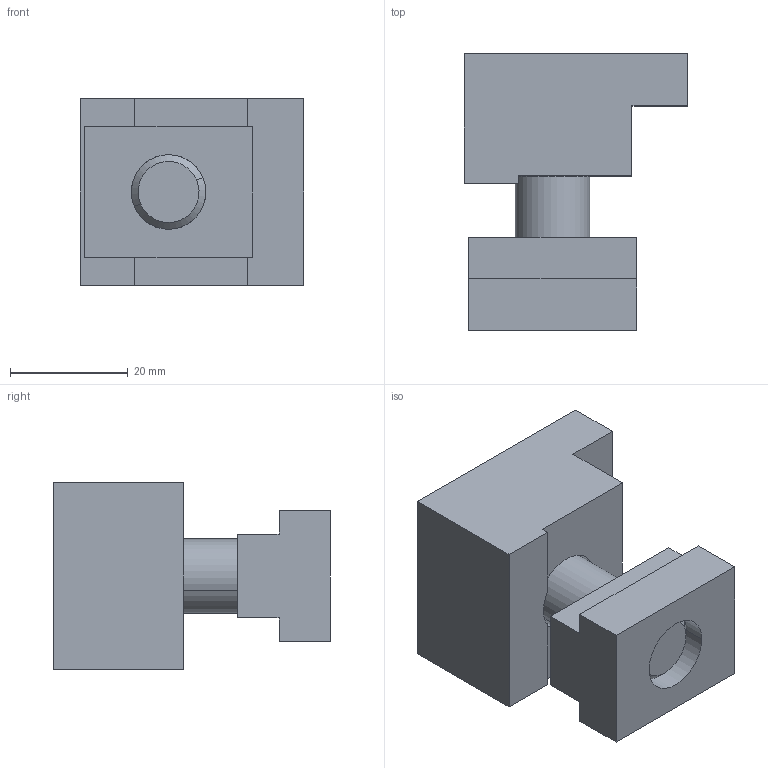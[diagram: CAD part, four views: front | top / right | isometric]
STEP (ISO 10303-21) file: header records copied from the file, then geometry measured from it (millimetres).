
FILE_DESCRIPTION (( 'STEP AP203' ), '1' );
FILE_NAME ('VERSABUILT MULTIGRIP VISE TOE CLAMP - 2025-05-14.STEP', '2025-05-14T20:46:16', ( '' ), ( '' ), 'SwSTEP 2.0', 'SolidWorks 2019', '' );
FILE_SCHEMA (( 'CONFIG_CONTROL_DESIGN' ));
Length unit declared in the file: inch
Products named in the file (4): VERSABUILT MULTIGRIP VISE TOE CLAMP - 2025-05-14; 0.50 SHCS UNC_SHCS 0.50-13 x 1.25 x 1.25-C; 5008777; 0.50-13 T-NUT_01 - FEA
Assembly tree (3 placements, depth 2):
  VERSABUILT MULTIGRIP VISE TOE CLAMP - 2025-05-14
    5008777
    0.50-13 T-NUT_01 - FEA
    0.50 SHCS UNC_SHCS 0.50-13 x 1.25 x 1.25-C
Bounding box: 38.1 x 47.09 x 31.75 mm (x, y, z)
Volume: 30024.3 mm3; surface area: 11939.6 mm2
Topology: 3 solids, 3 shells, 57 faces, 134 edges, 83 vertices
Faces by surface type: plane 37, cylinder 10, cone 8, torus 2
Entity records: 2034 total; most frequent: DIRECTION 296, CARTESIAN_POINT 278, ORIENTED_EDGE 264, EDGE_CURVE 132, AXIS2_PLACEMENT_3D 101, LINE 94, VECTOR 94, VERTEX_POINT 83
